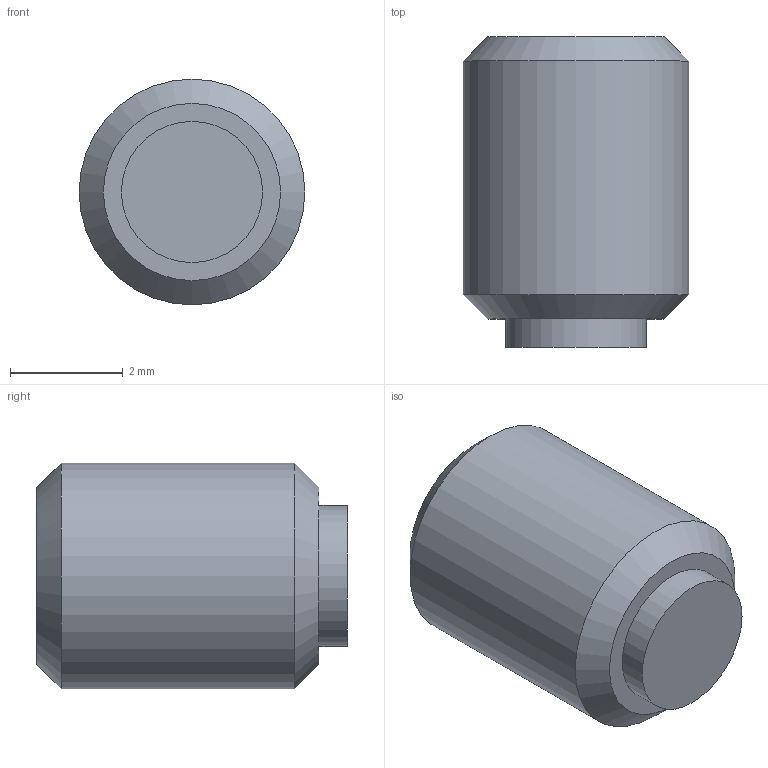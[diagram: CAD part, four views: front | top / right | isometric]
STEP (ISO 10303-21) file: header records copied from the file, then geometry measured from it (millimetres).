
FILE_DESCRIPTION( ( 'STEP AP203' ), '1' );
FILE_NAME( 'C:/Temp/Ganter_Step_05_03_2020/data/3_2/gn913_3/Grub screw GN 913.3-M4-5-MS.stp', '2020-03-13T05:35:44', ( 'License CC BY-ND 4.0' ), ( 'CADENAS' ), ' ', 'PARTsolutions', ' ' );
FILE_SCHEMA( ( 'CONFIG_CONTROL_DESIGN' ) );
Length unit declared in the file: millimetre
Products named in the file (1): _Grub screw GN 913.3-M4-5-MS
Bounding box: 4 x 5.5 x 4 mm (x, y, z)
Volume: 54.5 mm3; surface area: 102.4 mm2
Topology: 1 solids, 1 shells, 14 faces, 28 edges, 18 vertices
Faces by surface type: plane 10, cylinder 2, cone 2
Full cylindrical faces by diameter (mm): 2.5 x1, 4 x1
Entity records: 386 total; most frequent: DIRECTION 60, CARTESIAN_POINT 57, ORIENTED_EDGE 48, EDGE_CURVE 24, AXIS2_PLACEMENT_3D 21, EDGE_LOOP 20, VERTEX_POINT 18, LINE 18
